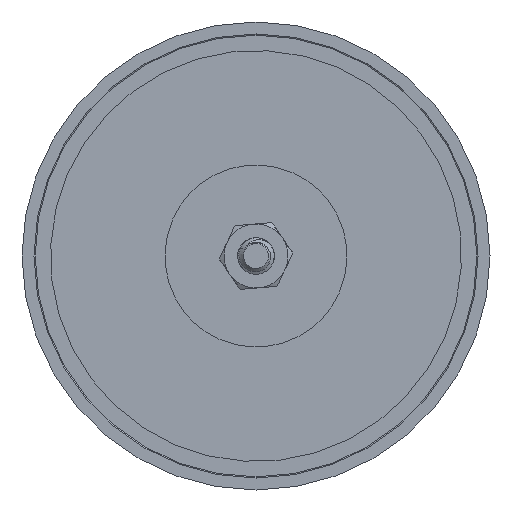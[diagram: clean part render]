
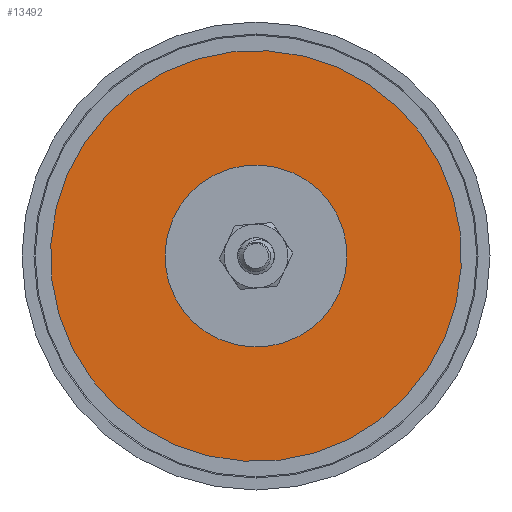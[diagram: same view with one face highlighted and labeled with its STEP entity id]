
A CAD part, front view. The second image highlights one B-rep face of the part: STEP entity #13492.
In plain terms, the highlighted planar face has unit normal (0, -1, 0).
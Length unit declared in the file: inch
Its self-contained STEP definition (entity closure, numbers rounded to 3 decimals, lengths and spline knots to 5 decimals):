
#696 = FACE_BOUND ( 'NONE', #22696, .T. ) ;
#1487 = DIRECTION ( 'NONE',  ( 0., 1., 0. ) ) ;
#1488 = DIRECTION ( 'NONE',  ( 0., 1., 0. ) ) ;
#1833 = CARTESIAN_POINT ( 'NONE',  ( -0.77065, -0.405, -1.17479 ) ) ;
#2630 = CIRCLE ( 'NONE', #30208, 0.6225 ) ;
#2636 = AXIS2_PLACEMENT_3D ( 'NONE', #31750, #21347, #26641 ) ;
#3846 = CIRCLE ( 'NONE', #2636, 1.405 ) ;
#4334 = DIRECTION ( 'NONE',  ( -0.549, 0., -0.836 ) ) ;
#5657 = DIRECTION ( 'NONE',  ( -0.549, 0., -0.836 ) ) ;
#7700 = EDGE_CURVE ( 'NONE', #16884, #29117, #30793, .T. ) ;
#7732 = ORIENTED_EDGE ( 'NONE', *, *, #26336, .F. ) ;
#8893 = CARTESIAN_POINT ( 'NONE',  ( 0.77065, -0.405, 1.17479 ) ) ;
#9547 = DIRECTION ( 'NONE',  ( -0.549, 0., -0.836 ) ) ;
#11094 = CARTESIAN_POINT ( 'NONE',  ( 0.34144, -0.405, 0.5205 ) ) ;
#12039 = CARTESIAN_POINT ( 'NONE',  ( 0., -0.405, 0. ) ) ;
#13072 = VERTEX_POINT ( 'NONE', #8893 ) ;
#13492 = ADVANCED_FACE ( 'NONE', ( #17015, #696 ), #17030, .F. ) ;
#16884 = VERTEX_POINT ( 'NONE', #25711 ) ;
#17015 = FACE_OUTER_BOUND ( 'NONE', #27845, .T. ) ;
#17030 = PLANE ( 'NONE',  #28880 ) ;
#18321 = VERTEX_POINT ( 'NONE', #1833 ) ;
#18665 = EDGE_CURVE ( 'NONE', #29117, #16884, #2630, .T. ) ;
#19346 = AXIS2_PLACEMENT_3D ( 'NONE', #12039, #1487, #4334 ) ;
#20437 = ORIENTED_EDGE ( 'NONE', *, *, #7700, .T. ) ;
#21347 = DIRECTION ( 'NONE',  ( 0., 1., 0. ) ) ;
#22160 = DIRECTION ( 'NONE',  ( 0., 1., 0. ) ) ;
#22696 = EDGE_LOOP ( 'NONE', ( #28896, #20437 ) ) ;
#23562 = EDGE_CURVE ( 'NONE', #13072, #18321, #27866, .T. ) ;
#23739 = CARTESIAN_POINT ( 'NONE',  ( 0., -0.405, 0. ) ) ;
#24594 = DIRECTION ( 'NONE',  ( -0.549, 0., -0.836 ) ) ;
#25711 = CARTESIAN_POINT ( 'NONE',  ( -0.34144, -0.405, -0.5205 ) ) ;
#26281 = DIRECTION ( 'NONE',  ( 0., 1., 0. ) ) ;
#26336 = EDGE_CURVE ( 'NONE', #18321, #13072, #3846, .T. ) ;
#26641 = DIRECTION ( 'NONE',  ( -0.549, 0., -0.836 ) ) ;
#27018 = AXIS2_PLACEMENT_3D ( 'NONE', #23739, #26281, #5657 ) ;
#27330 = CARTESIAN_POINT ( 'NONE',  ( 0., -0.405, 0. ) ) ;
#27845 = EDGE_LOOP ( 'NONE', ( #29979, #7732 ) ) ;
#27866 = CIRCLE ( 'NONE', #27018, 1.405 ) ;
#28880 = AXIS2_PLACEMENT_3D ( 'NONE', #27330, #1488, #9547 ) ;
#28896 = ORIENTED_EDGE ( 'NONE', *, *, #18665, .T. ) ;
#29117 = VERTEX_POINT ( 'NONE', #11094 ) ;
#29949 = CARTESIAN_POINT ( 'NONE',  ( 0., -0.405, 0. ) ) ;
#29979 = ORIENTED_EDGE ( 'NONE', *, *, #23562, .F. ) ;
#30208 = AXIS2_PLACEMENT_3D ( 'NONE', #29949, #22160, #24594 ) ;
#30793 = CIRCLE ( 'NONE', #19346, 0.6225 ) ;
#31750 = CARTESIAN_POINT ( 'NONE',  ( 0., -0.405, 0. ) ) ;
